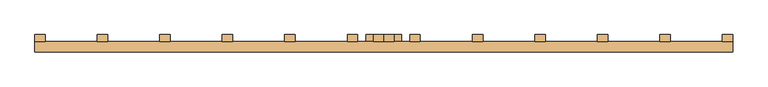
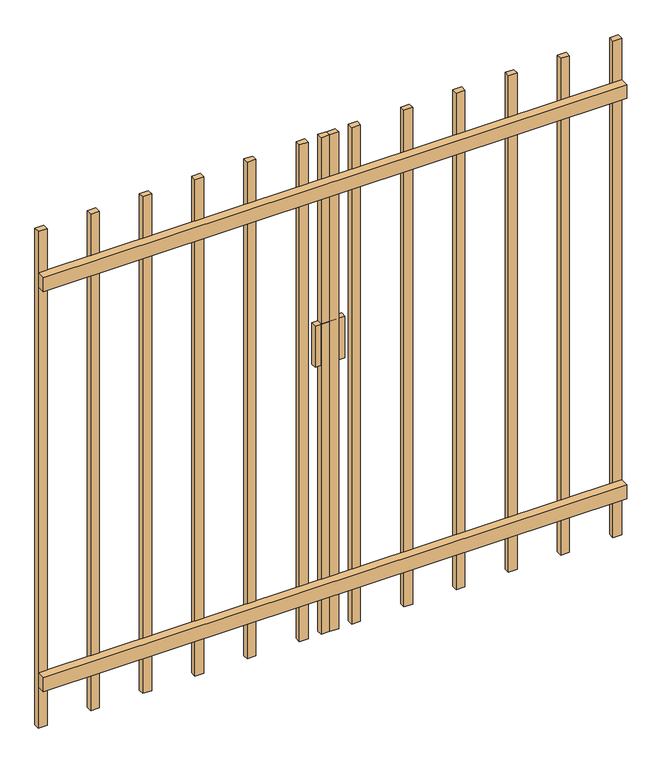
"""IFC4 building model written with IfcOpenShell, lengths in millimetres: door geometry, PORTÃO DUPLO PAREDE CORTINA : PORTÃO DUPLO 2M 2."""

from ifc_helpers import new_model, si_unit, frame, origin, place, context, project, spatial, polyline, outline, extrude, source, transform, mapped, element, save


def door_243d3cfc(model_context):
    return source(origin(), model_context, "Body", "SweptSolid", [
        extrude(outline(polyline([(30.0, 90.0), (30.0, 70.0), (0.0, 70.0), (0.0, 90.0), (30.0, 90.0)])), frame((0.0, 0.0, 50.0), z_axis=(0.0, 0.0, 1.0), x_axis=(1.0, 0.0, 0.0)), (0.0, 0.0, 1.0), 1800.0),
        extrude(outline(polyline([(0.0, 90.0), (0.0, 70.0), (-30.0, 70.0), (-30.0, 90.0), (0.0, 90.0)])), frame((0.0, 0.0, 50.0), z_axis=(0.0, 0.0, 1.0), x_axis=(1.0, 0.0, 0.0)), (0.0, 0.0, 1.0), 1800.0),
        extrude(outline(polyline([(-790.9090909, 90.0), (-790.9090909, 70.0), (-820.9090909, 70.0), (-820.9090909, 90.0), (-790.9090909, 90.0)])), frame((0.0, 0.0, 50.0), z_axis=(0.0, 0.0, 1.0), x_axis=(1.0, 0.0, 0.0)), (0.0, 0.0, 1.0), 1800.0),
        extrude(outline(polyline([(-611.8181818, 90.0), (-611.8181818, 70.0), (-641.8181818, 70.0), (-641.8181818, 90.0), (-611.8181818, 90.0)])), frame((0.0, 0.0, 50.0), z_axis=(0.0, 0.0, 1.0), x_axis=(1.0, 0.0, 0.0)), (0.0, 0.0, 1.0), 1800.0),
        extrude(outline(polyline([(-432.7272727, 90.0), (-432.7272727, 70.0), (-462.7272727, 70.0), (-462.7272727, 90.0), (-432.7272727, 90.0)])), frame((0.0, 0.0, 50.0), z_axis=(0.0, 0.0, 1.0), x_axis=(1.0, 0.0, 0.0)), (0.0, 0.0, 1.0), 1800.0),
        extrude(outline(polyline([(-253.6363636, 90.0), (-253.6363636, 70.0), (-283.6363636, 70.0), (-283.6363636, 90.0), (-253.6363636, 90.0)])), frame((0.0, 0.0, 50.0), z_axis=(0.0, 0.0, 1.0), x_axis=(1.0, 0.0, 0.0)), (0.0, 0.0, 1.0), 1800.0),
        extrude(outline(polyline([(-74.5454545, 90.0), (-74.5454545, 70.0), (-104.5454545, 70.0), (-104.5454545, 90.0), (-74.5454545, 90.0)])), frame((0.0, 0.0, 50.0), z_axis=(0.0, 0.0, 1.0), x_axis=(1.0, 0.0, 0.0)), (0.0, 0.0, 1.0), 1800.0),
        extrude(outline(polyline([(104.5454545, 90.0), (104.5454545, 70.0), (74.5454545, 70.0), (74.5454545, 90.0), (104.5454545, 90.0)])), frame((0.0, 0.0, 50.0), z_axis=(0.0, 0.0, 1.0), x_axis=(1.0, 0.0, 0.0)), (0.0, 0.0, 1.0), 1800.0),
        extrude(outline(polyline([(283.6363636, 90.0), (283.6363636, 70.0), (253.6363636, 70.0), (253.6363636, 90.0), (283.6363636, 90.0)])), frame((0.0, 0.0, 50.0), z_axis=(0.0, 0.0, 1.0), x_axis=(1.0, 0.0, 0.0)), (0.0, 0.0, 1.0), 1800.0),
        extrude(outline(polyline([(462.7272727, 90.0), (462.7272727, 70.0), (432.7272727, 70.0), (432.7272727, 90.0), (462.7272727, 90.0)])), frame((0.0, 0.0, 50.0), z_axis=(0.0, 0.0, 1.0), x_axis=(1.0, 0.0, 0.0)), (0.0, 0.0, 1.0), 1800.0),
        extrude(outline(polyline([(641.8181818, 90.0), (641.8181818, 70.0), (611.8181818, 70.0), (611.8181818, 90.0), (641.8181818, 90.0)])), frame((0.0, 0.0, 50.0), z_axis=(0.0, 0.0, 1.0), x_axis=(1.0, 0.0, 0.0)), (0.0, 0.0, 1.0), 1800.0),
        extrude(outline(polyline([(820.9090909, 90.0), (820.9090909, 70.0), (790.9090909, 70.0), (790.9090909, 90.0), (820.9090909, 90.0)])), frame((0.0, 0.0, 50.0), z_axis=(0.0, 0.0, 1.0), x_axis=(1.0, 0.0, 0.0)), (0.0, 0.0, 1.0), 1800.0),
        extrude(outline(polyline([(-970.0, 90.0), (-970.0, 70.0), (-1000.0, 70.0), (-1000.0, 90.0), (-970.0, 90.0)])), frame((0.0, 0.0, 50.0), z_axis=(0.0, 0.0, 1.0), x_axis=(1.0, 0.0, 0.0)), (0.0, 0.0, 1.0), 1800.0),
        extrude(outline(polyline([(1000.0, 90.0), (1000.0, 70.0), (970.0, 70.0), (970.0, 90.0), (1000.0, 90.0)])), frame((0.0, 0.0, 50.0), z_axis=(0.0, 0.0, 1.0), x_axis=(1.0, 0.0, 0.0)), (0.0, 0.0, 1.0), 1800.0),
        extrude(outline(polyline([(51.2053405, 70.0), (-51.2053405, 70.0), (-51.2053405, 90.0), (51.2053405, 90.0), (51.2053405, 70.0)])), frame((0.0, 0.0, 1025.0), z_axis=(0.0, 0.0, 1.0), x_axis=(1.0, 0.0, 0.0)), (0.0, 0.0, 1.0), 150.0),
        extrude(outline(polyline([(-1000.0, 40.0), (-1000.0, 70.0), (1000.0, 70.0), (1000.0, 40.0), (-1000.0, 40.0)])), frame((0.0, 0.0, 200.0), z_axis=(0.0, 0.0, 1.0), x_axis=(1.0, 0.0, 0.0)), (0.0, 0.0, 1.0), 50.0),
        extrude(outline(polyline([(-1000.0, 40.0), (-1000.0, 70.0), (1000.0, 70.0), (1000.0, 40.0), (-1000.0, 40.0)])), frame((0.0, 0.0, 1650.0), z_axis=(0.0, 0.0, 1.0), x_axis=(1.0, 0.0, 0.0)), (0.0, 0.0, 1.0), 50.0),
    ])


if __name__ == "__main__":
    model = new_model("IFC4")
    model_context = context("Model", 3, world=origin())
    ifc_project = project(units=[si_unit("LENGTHUNIT", "METRE", prefix="MILLI")], contexts=[model_context])
    site = spatial("IfcSite", under=ifc_project)
    building = spatial("IfcBuilding", under=site)
    placement = place(None, origin())
    door_shape = door_243d3cfc(model_context)
    element("IfcDoor", 1, ObjectType="PORTÃO DUPLO PAREDE CORTINA : PORTÃO DUPLO 2M 2", at=placement, inside=building, context=model_context, shape_type="MappedRepresentation", body=[
        mapped(door_shape, transform((0.0, 0.0, 0.0), x_axis=(1.0, 0.0, 0.0), y_axis=(0.0, 1.0, 0.0), z_axis=(0.0, 0.0, 1.0))),
    ])
    save(model, "model.ifc")
